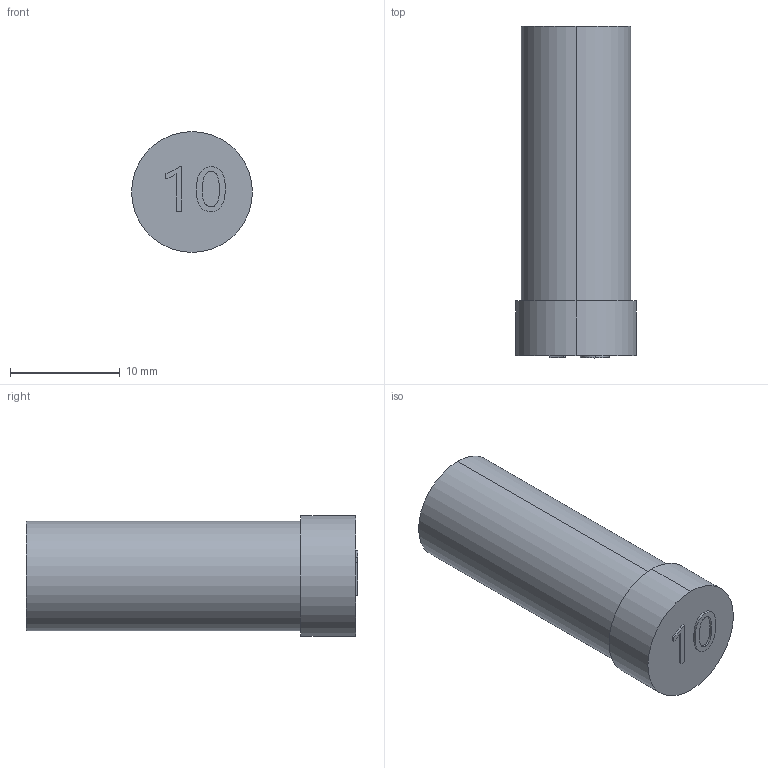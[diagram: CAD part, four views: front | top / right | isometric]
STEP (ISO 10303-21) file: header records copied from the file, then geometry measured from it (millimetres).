
FILE_DESCRIPTION (( 'STEP AP203' ), '1' );
FILE_NAME ('042895 ST10.STEP', '2023-11-23T00:51:55', ( '' ), ( '' ), 'SwSTEP 2.0', 'SolidWorks 2016', '' );
FILE_SCHEMA (( 'CONFIG_CONTROL_DESIGN' ));
Length unit declared in the file: millimetre
Products named in the file (1): 042895 ST10
Bounding box: 11 x 30.2 x 11 mm (x, y, z)
Volume: 2440.1 mm3; surface area: 1154.2 mm2
Topology: 1 solids, 1 shells, 25 faces, 57 edges, 38 vertices
Faces by surface type: plane 11, bspline 10, cylinder 4
Entity records: 1372 total; most frequent: CARTESIAN_POINT 787, ORIENTED_EDGE 114, DIRECTION 77, EDGE_CURVE 57, VERTEX_POINT 38, VECTOR 29, LINE 29, EDGE_LOOP 29
